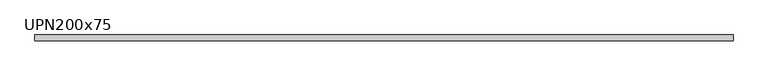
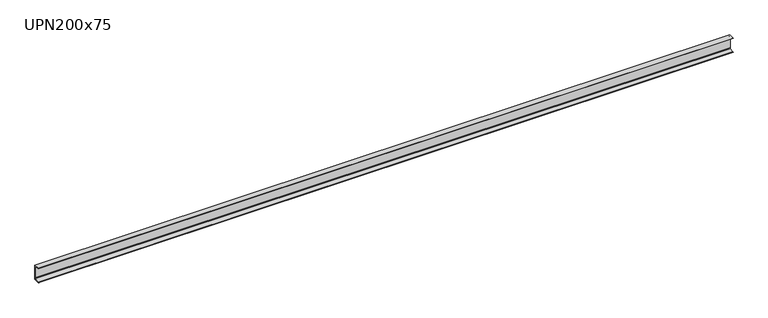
"""IFC4 building model written with IfcOpenShell, lengths in millimetres: beam geometry, M_MC Shapes : UPN200x75."""

import ifcopenshell
import ifcopenshell.guid

model = None  # the IFC model being written
_history = None  # IfcOwnerHistory: only IFC2X3 demands one
_inside = {}  # id of a spatial element -> (the spatial element, [elements in it])
_under = {}  # id of a project, library or spatial element -> (it, [spatial elements below it])
_declared = {}  # id of a project -> (the project, [libraries it declares])
_typed = {}  # id of a type object -> (the type object, [elements of that type])
_made_of = {}  # id of a material, layer set ... -> (it, [elements and type objects made of it])


def new_model(schema):
    """Start an empty IFC model of exactly this schema.

    Asked for "IFC4X3", IfcOpenShell would pick the latest addendum, in which some entities
    have other attributes; the version numbers below select the first issue.
    IFC2X3 requires an IfcOwnerHistory on every rooted entity: one is made here for all.
    """
    global model, _history
    if schema == "IFC4X3":
        model = ifcopenshell.file(schema_version=(4, 3, 0, 0))
    else:
        model = ifcopenshell.file(schema=schema)
    _inside.clear()
    _under.clear()
    _declared.clear()
    _typed.clear()
    _made_of.clear()
    _history = None
    if model.schema == "IFC2X3":
        org = make("IfcOrganization", Name="unknown")
        user = make(
            "IfcPersonAndOrganization",
            ThePerson=make("IfcPerson", FamilyName="unknown"),
            TheOrganization=org,
        )
        app = make(
            "IfcApplication",
            ApplicationDeveloper=org,
            Version="unknown",
            ApplicationFullName="unknown",
            ApplicationIdentifier="unknown",
        )
        _history = make(
            "IfcOwnerHistory",
            OwningUser=user,
            OwningApplication=app,
            ChangeAction="ADDED",
            CreationDate=0,
        )
    return model


def make(cls, **values):
    """One entity of the class cls with the attributes given. An attribute that is None is left unset."""
    return model.create_entity(
        cls, **{name: value for name, value in values.items() if value is not None}
    )


def rooted(cls, **values):
    """An entity with a GlobalId (a new one), such as an element, a storey or a relation."""
    return make(cls, GlobalId=ifcopenshell.guid.new(), OwnerHistory=_history, **values)


def si_unit(unit_type, name, prefix=None):
    """IfcSIUnit, for example si_unit("LENGTHUNIT", "METRE", prefix="MILLI")."""
    return make("IfcSIUnit", UnitType=unit_type, Prefix=prefix, Name=name)


def assignment(units):
    """IfcUnitAssignment: the units of a project."""
    return None if units is None else make("IfcUnitAssignment", Units=units)


def point(xyz):
    """IfcCartesianPoint."""
    return None if xyz is None else make("IfcCartesianPoint", Coordinates=xyz)


def direction(xyz):
    """IfcDirection."""
    return None if xyz is None else make("IfcDirection", DirectionRatios=xyz)


def frame(location, z_axis=None, x_axis=None):
    """IfcAxis2Placement3D, a coordinate frame: its origin and axes. An axis left out is left unset."""
    return make(
        "IfcAxis2Placement3D",
        Location=point(location),
        Axis=direction(z_axis),
        RefDirection=direction(x_axis),
    )


def frame_2d(location, x_axis=None):
    """IfcAxis2Placement2D, a coordinate frame in the plane: its origin and x axis."""
    return make(
        "IfcAxis2Placement2D", Location=point(location), RefDirection=direction(x_axis)
    )


def origin():
    """The frame at (0, 0, 0) with its axes left unset."""
    return frame((0.0, 0.0, 0.0))


def place(relative_to, where):
    """IfcLocalPlacement: puts the frame where relative to a parent placement (None: the world)."""
    return make(
        "IfcLocalPlacement", PlacementRelTo=relative_to, RelativePlacement=where
    )


def context(
    kind, dimensions, precision=None, world=None, true_north=None, identifier=None
):
    """IfcGeometricRepresentationContext, for example the 3D "Model" context."""
    return make(
        "IfcGeometricRepresentationContext",
        ContextIdentifier=identifier,
        ContextType=kind,
        CoordinateSpaceDimension=dimensions,
        Precision=precision,
        WorldCoordinateSystem=world,
        TrueNorth=true_north,
    )


def project(units=None, contexts=None):
    """IfcProject with its units and contexts."""
    return rooted(
        "IfcProject",
        Name="project",
        RepresentationContexts=contexts,
        UnitsInContext=assignment(units),
    )


def spatial(cls, under=None, at=None, **own):
    """A site, building, storey or space (cls), placed at a placement, below another one or the project."""
    s = rooted(cls, ObjectPlacement=at, **own)
    if under is not None:
        _under.setdefault(under.id(), (under, []))[1].append(s)
    return s


def polyline(points):
    """IfcPolyline through the points."""
    return make("IfcPolyline", Points=[point(p) for p in points])


def circle_curve(where, radius):
    """IfcCircle in the frame where."""
    return make("IfcCircle", Position=where, Radius=radius)


def trimmed(basis, trim1, trim2, sense, master):
    """IfcTrimmedCurve: the piece of a basis curve between two trims."""
    return make(
        "IfcTrimmedCurve",
        BasisCurve=basis,
        Trim1=trim1,
        Trim2=trim2,
        SenseAgreement=sense,
        MasterRepresentation=master,
    )


def segment(curve, same_sense, transition):
    """IfcCompositeCurveSegment."""
    return make(
        "IfcCompositeCurveSegment",
        Transition=transition,
        SameSense=same_sense,
        ParentCurve=curve,
    )


def composite_curve(segments, self_intersect=None):
    """IfcCompositeCurve: segments joined end to end."""
    return make("IfcCompositeCurve", Segments=segments, SelfIntersect=self_intersect)


def outline(outer, holes=None, kind="AREA"):
    """IfcArbitraryClosedProfileDef: a profile drawn as a closed curve; with holes, ...WithVoids."""
    if holes is None:
        return make("IfcArbitraryClosedProfileDef", ProfileType=kind, OuterCurve=outer)
    return make(
        "IfcArbitraryProfileDefWithVoids",
        ProfileType=kind,
        OuterCurve=outer,
        InnerCurves=holes,
    )


def extrude(swept, where, along, depth):
    """IfcExtrudedAreaSolid: the profile swept, set in the frame where, extruded along a direction by depth."""
    return make(
        "IfcExtrudedAreaSolid",
        SweptArea=swept,
        Position=where,
        ExtrudedDirection=direction(along),
        Depth=depth,
    )


def shape(context_of_items, identifier, shape_type, items):
    """IfcShapeRepresentation: the items that make up one representation, for example the "Body"."""
    return make(
        "IfcShapeRepresentation",
        ContextOfItems=context_of_items,
        RepresentationIdentifier=identifier,
        RepresentationType=shape_type,
        Items=items,
    )


def source(mapping_origin, context_of_items, identifier, shape_type, items):
    """IfcRepresentationMap: a shape defined once, which mapped items show again and again."""
    return make(
        "IfcRepresentationMap",
        MappingOrigin=mapping_origin,
        MappedRepresentation=shape(context_of_items, identifier, shape_type, items),
    )


def transform(
    local_origin,
    x_axis=None,
    y_axis=None,
    z_axis=None,
    scale=None,
    scale2=None,
    scale3=None,
    uniform=True,
):
    """IfcCartesianTransformationOperator3D, or its non-uniform kind. x_axis, y_axis, z_axis: its Axis1, 2, 3."""
    if uniform:
        return make(
            "IfcCartesianTransformationOperator3D",
            Axis1=direction(x_axis),
            Axis2=direction(y_axis),
            LocalOrigin=point(local_origin),
            Scale=scale,
            Axis3=direction(z_axis),
        )
    return make(
        "IfcCartesianTransformationOperator3DnonUniform",
        Axis1=direction(x_axis),
        Axis2=direction(y_axis),
        LocalOrigin=point(local_origin),
        Scale=scale,
        Axis3=direction(z_axis),
        Scale2=scale2,
        Scale3=scale3,
    )


def mapped(mapping_source, mapping_target):
    """IfcMappedItem: shows the shape of a source again, moved by a transform."""
    return make(
        "IfcMappedItem", MappingSource=mapping_source, MappingTarget=mapping_target
    )


def made_of(thing, what):
    """Note that an element or type object is made of a material, layer set ...; save() writes the relation."""
    if what is not None:
        _made_of.setdefault(what.id(), (what, []))[1].append(thing)
    return thing


def element(
    cls,
    number,
    at=None,
    inside=None,
    cuts=None,
    type_object=None,
    material=None,
    context=None,
    identifier="Body",
    shape_type=None,
    held_by="IfcProductDefinitionShape",
    body=None,
    shapes=None,
    **own,
):
    """One element of the class cls, such as IfcWall. Its Tag is "e" and its number.

    at: its placement. inside: the storey or other place that contains it. cuts: it is an
    opening in that element (IfcRelVoidsElement). A single representation is given by context,
    identifier, shape_type and body (its items); several are given by shapes. held_by: the class
    of the entity that holds the representations. save() writes the other relations.
    """
    e = rooted(cls, Tag="e%d" % number, ObjectPlacement=at, **own)
    if body is not None:
        shapes = [shape(context, identifier, shape_type, body)]
    if shapes is not None:
        e.Representation = make(held_by, Representations=shapes)
    if inside is not None:
        _inside.setdefault(inside.id(), (inside, []))[1].append(e)
    if cuts is not None:
        rooted(
            "IfcRelVoidsElement", RelatingBuildingElement=cuts, RelatedOpeningElement=e
        )
    if type_object is not None:
        _typed.setdefault(type_object.id(), (type_object, []))[1].append(e)
    return made_of(e, material)


def aggregate(whole, parts):
    """IfcRelAggregates: a whole, such as a stair, and the parts it consists of."""
    return rooted("IfcRelAggregates", RelatingObject=whole, RelatedObjects=parts)


def save(model, path):
    """Write the relations noted so far, then the file.

    IfcRelAggregates (storeys below a building ...), IfcRelContainedInSpatialStructure (elements
    in a storey), IfcRelDefinesByType, IfcRelAssociatesMaterial and IfcRelDeclares: one each for
    every whole, place, type object, material and project.
    """
    for whole, parts in _under.values():
        aggregate(whole, parts)
    for where, things in _inside.values():
        rooted(
            "IfcRelContainedInSpatialStructure",
            RelatedElements=things,
            RelatingStructure=where,
        )
    for kind, things in _typed.values():
        rooted("IfcRelDefinesByType", RelatedObjects=things, RelatingType=kind)
    for what, things in _made_of.values():
        rooted("IfcRelAssociatesMaterial", RelatedObjects=things, RelatingMaterial=what)
    for by, libraries in _declared.values():
        rooted("IfcRelDeclares", RelatingContext=by, RelatedDefinitions=libraries)
    model.write(path)


def upn200x75_1ffd0ced(model_context):
    return source(origin(), model_context, "Body", "SweptSolid", [
        extrude(outline(composite_curve([segment(polyline([(10.9, 100.0), (10.9, -100.0), (-64.1, -100.0), (-64.1, -99.0253247)]), True, "CONTINUOUS"), segment(trimmed(circle_curve(frame_2d((-60.15, -99.0253247)), 3.95), [point((-64.1, -99.0253247))], [point((-60.7993773, -95.1290689))], False, "CARTESIAN"), True, "CONTINUOUS"), segment(polyline([(-60.7993773, -95.1290689), (-0.2512455, -85.0376935)]), True, "CONTINUOUS"), segment(trimmed(circle_curve(frame_2d((-1.55, -77.2451819)), 7.9), [point((-0.2512455, -85.0376935))], [point((6.35, -77.2451819))], True, "CARTESIAN"), True, "CONTINUOUS"), segment(polyline([(6.35, -77.2451819), (6.35, 77.2451819)]), True, "CONTINUOUS"), segment(trimmed(circle_curve(frame_2d((-1.55, 77.2451819)), 7.9), [point((6.35, 77.2451819))], [point((-0.2512455, 85.0376935))], True, "CARTESIAN"), True, "CONTINUOUS"), segment(polyline([(-0.2512455, 85.0376935), (-60.7993773, 95.1290689)]), True, "CONTINUOUS"), segment(trimmed(circle_curve(frame_2d((-60.15, 99.0253247)), 3.95), [point((-60.7993773, 95.1290689))], [point((-64.1, 99.0253247))], False, "CARTESIAN"), True, "CONTINUOUS"), segment(polyline([(-64.1, 99.0253247), (-64.1, 100.0), (10.9, 100.0)]), True, "CONTINUOUS")], self_intersect=False)), frame((-4549.35, 0.0, 0.0), z_axis=(1.0, 0.0, 0.0), x_axis=(0.0, 1.0, 0.0)), (0.0, 0.0, 1.0), 9187.2),
    ])


if __name__ == "__main__":
    model = new_model("IFC4")
    model_context = context("Model", 3, world=origin())
    ifc_project = project(units=[si_unit("LENGTHUNIT", "METRE", prefix="MILLI")], contexts=[model_context])
    site = spatial("IfcSite", under=ifc_project)
    building = spatial("IfcBuilding", under=site)
    placement = place(None, origin())
    upn200x75_shape = upn200x75_1ffd0ced(model_context)
    element("IfcBeam", 1, ObjectType="M_MC Shapes : UPN200x75", at=placement, inside=building, context=model_context, shape_type="MappedRepresentation", body=[
        mapped(upn200x75_shape, transform((0.0, 0.0, 0.0), x_axis=(1.0, 0.0, 0.0), y_axis=(0.0, 1.0, 0.0), z_axis=(0.0, 0.0, 1.0))),
    ])
    save(model, "model.ifc")
